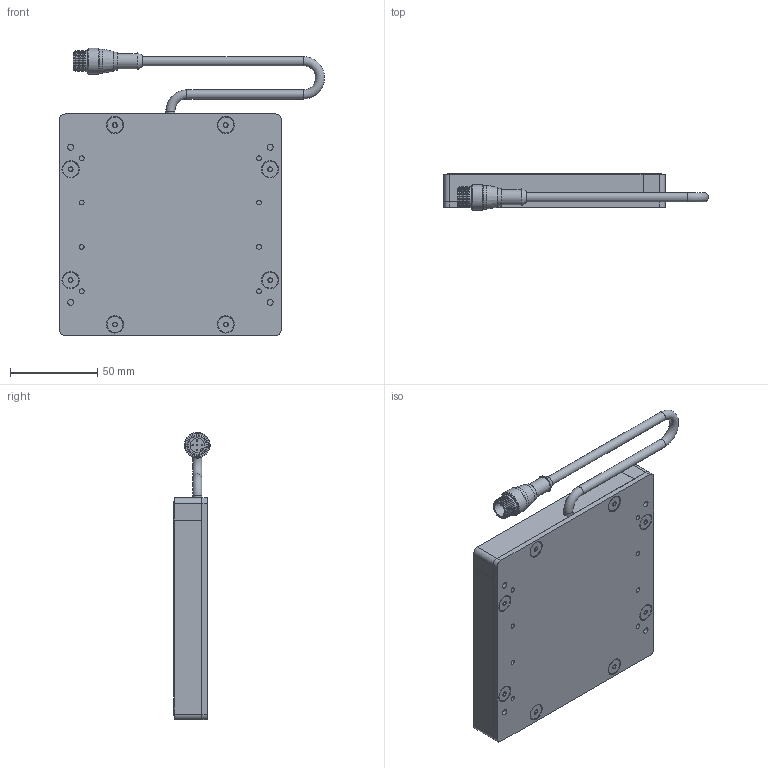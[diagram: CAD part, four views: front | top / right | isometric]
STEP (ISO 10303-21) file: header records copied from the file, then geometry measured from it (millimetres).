
FILE_DESCRIPTION (( 'STEP AP214' ), '1' );
FILE_NAME ('SBL44-XXX-WDC.STEP', '2026-04-17T19:02:43', ( '' ), ( '' ), 'SwSTEP 2.0', 'SolidWorks 2025', '' );
FILE_SCHEMA (( 'AUTOMOTIVE_DESIGN' ));
Length unit declared in the file: inch
Products named in the file (10): MC Pigtail 24; SBL44-XXX-WDC; SBL3 to 18in rail_04in rail; 8-32 x 0.375 FHCS (92210A192)_92210A192; M12 Connector 4,5 and 8 pin_RS4.5T; BackPlate BLYYXX_0404; SBL3 to 18in rail_04in No CG; Hex Standoff .375 x 8-32; WD-SBLYYXX_4x4; SC Pigtail Complete 18_5pin
Assembly tree (25 placements, depth 3):
  SBL44-XXX-WDC
    BackPlate BLYYXX_0404
    SBL3 to 18in rail_04in rail
    SBL3 to 18in rail_04in No CG  x3
    SC Pigtail Complete 18_5pin
      MC Pigtail 24
      M12 Connector 4,5 and 8 pin_RS4.5T
    WD-SBLYYXX_4x4
    Hex Standoff .375 x 8-32  x8
    8-32 x 0.375 FHCS (92210A192)_92210A192  x8
Bounding box: 151.8 x 20.74 x 164.53 mm (x, y, z)
Volume: 174928 mm3; surface area: 108922.8 mm2
Topology: 24 solids, 24 shells, 642 faces, 1508 edges, 931 vertices
Faces by surface type: plane 257, cylinder 196, cone 139, bspline 24, torus 21, sphere 5
Full cylindrical faces by diameter (mm): 0.762 x5, 2.705 x8, 3.454 x12, 4.496 x16, 5.207 x3, 6.604 x8, 6.858 x8, 8.382 x1, 8.636 x1, 9.119 x8, 10.16 x1, 10.541 x1, 11.938 x1, 13.716 x2, 14.732 x1
Entity records: 11082 total; most frequent: CARTESIAN_POINT 3310, DIRECTION 1396, ORIENTED_EDGE 1100, AXIS2_PLACEMENT_3D 580, EDGE_CURVE 550, EDGE_LOOP 444, VERTEX_POINT 406, FACE_OUTER_BOUND 335
